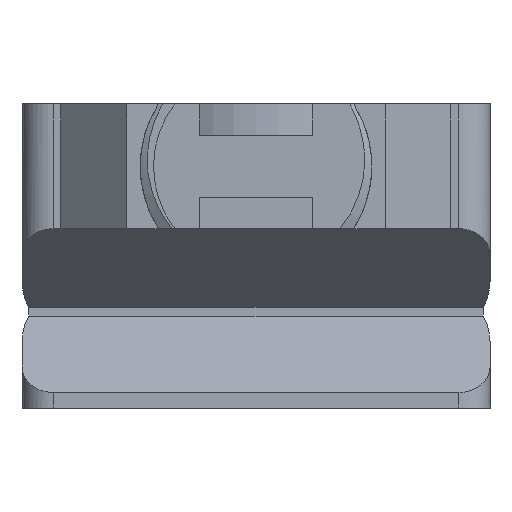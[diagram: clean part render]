
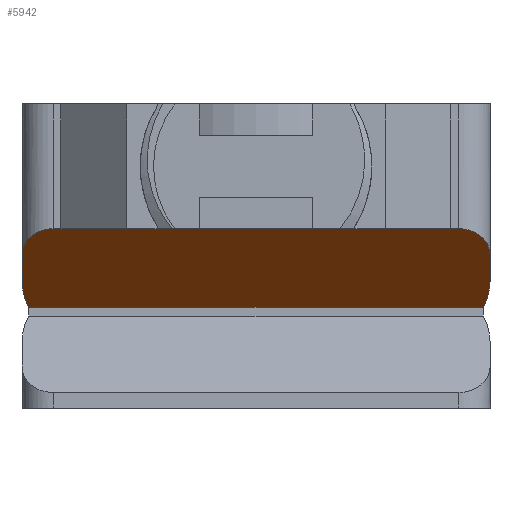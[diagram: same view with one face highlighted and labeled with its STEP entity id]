
A CAD part, left-side view. The second image highlights one B-rep face of the part: STEP entity #5942.
In plain terms, the highlighted planar face has unit normal (-0.643, 0, -0.766).
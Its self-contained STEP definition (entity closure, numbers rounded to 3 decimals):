
#17=ELLIPSE('',#6138,6.527,5.);
#18=ELLIPSE('',#6139,6.527,5.);
#19=ELLIPSE('',#6140,2.611,2.);
#20=ELLIPSE('',#6141,2.611,2.);
#65=PLANE('',#6137);
#522=FACE_OUTER_BOUND('',#839,.T.);
#839=EDGE_LOOP('',(#5428,#5429,#5430,#5431,#5432,#5433,#5434,#5435));
#1751=LINE('',#17975,#2092);
#1752=LINE('',#17982,#2093);
#1753=LINE('',#17986,#2094);
#1754=LINE('',#17989,#2095);
#2092=VECTOR('',#6805,10.);
#2093=VECTOR('',#6812,10.);
#2094=VECTOR('',#6815,10.);
#2095=VECTOR('',#6818,10.);
#2718=VERTEX_POINT('',#17969);
#2720=VERTEX_POINT('',#17973);
#2721=VERTEX_POINT('',#17977);
#2722=VERTEX_POINT('',#17979);
#2723=VERTEX_POINT('',#17981);
#2724=VERTEX_POINT('',#17983);
#2725=VERTEX_POINT('',#17985);
#2726=VERTEX_POINT('',#17987);
#3631=EDGE_CURVE('',#2718,#2720,#1751,.T.);
#3632=EDGE_CURVE('',#2718,#2721,#17,.T.);
#3633=EDGE_CURVE('',#2722,#2720,#18,.T.);
#3634=EDGE_CURVE('',#2723,#2722,#1752,.T.);
#3635=EDGE_CURVE('',#2724,#2723,#19,.T.);
#3636=EDGE_CURVE('',#2725,#2724,#1753,.T.);
#3637=EDGE_CURVE('',#2726,#2725,#20,.T.);
#3638=EDGE_CURVE('',#2721,#2726,#1754,.T.);
#5428=ORIENTED_EDGE('',*,*,#3632,.F.);
#5429=ORIENTED_EDGE('',*,*,#3631,.T.);
#5430=ORIENTED_EDGE('',*,*,#3633,.F.);
#5431=ORIENTED_EDGE('',*,*,#3634,.F.);
#5432=ORIENTED_EDGE('',*,*,#3635,.F.);
#5433=ORIENTED_EDGE('',*,*,#3636,.F.);
#5434=ORIENTED_EDGE('',*,*,#3637,.F.);
#5435=ORIENTED_EDGE('',*,*,#3638,.F.);
#5942=ADVANCED_FACE('',(#522),#65,.F.);
#6137=AXIS2_PLACEMENT_3D('',#17976,#6806,#6807);
#6138=AXIS2_PLACEMENT_3D('',#17978,#6808,#6809);
#6139=AXIS2_PLACEMENT_3D('',#17980,#6810,#6811);
#6140=AXIS2_PLACEMENT_3D('',#17984,#6813,#6814);
#6141=AXIS2_PLACEMENT_3D('',#17988,#6816,#6817);
#6805=DIRECTION('',(0.,-1.,0.));
#6806=DIRECTION('center_axis',(0.643,0.,0.766));
#6807=DIRECTION('ref_axis',(-0.766,0.,0.643));
#6808=DIRECTION('center_axis',(0.643,0.,0.766));
#6809=DIRECTION('ref_axis',(0.766,0.,-0.643));
#6810=DIRECTION('center_axis',(0.643,0.,0.766));
#6811=DIRECTION('ref_axis',(0.766,0.,-0.643));
#6812=DIRECTION('',(0.766,0.,-0.643));
#6813=DIRECTION('center_axis',(0.643,0.,0.766));
#6814=DIRECTION('ref_axis',(-0.766,0.,0.643));
#6815=DIRECTION('',(0.,-1.,0.));
#6816=DIRECTION('center_axis',(0.643,0.,0.766));
#6817=DIRECTION('ref_axis',(-0.766,0.,0.643));
#6818=DIRECTION('',(-0.766,0.,0.643));
#17969=CARTESIAN_POINT('',(41.007,14.579,-5.042));
#17973=CARTESIAN_POINT('',(41.007,-14.579,-5.042));
#17975=CARTESIAN_POINT('',(41.007,15.,-5.042));
#17976=CARTESIAN_POINT('Origin',(41.007,15.,-5.042));
#17977=CARTESIAN_POINT('',(39.,15.,-3.357));
#17978=CARTESIAN_POINT('Origin',(39.,10.,-3.357));
#17979=CARTESIAN_POINT('',(39.,-15.,-3.357));
#17980=CARTESIAN_POINT('Origin',(39.,-10.,-3.357));
#17981=CARTESIAN_POINT('',(37.,-15.,-1.679));
#17982=CARTESIAN_POINT('',(38.59,-15.,-3.014));
#17983=CARTESIAN_POINT('',(35.,-13.,-0.001));
#17984=CARTESIAN_POINT('Origin',(37.,-13.,-1.679));
#17985=CARTESIAN_POINT('',(35.,13.,-0.001));
#17986=CARTESIAN_POINT('',(35.,14.,-0.001));
#17987=CARTESIAN_POINT('',(37.,15.,-1.679));
#17988=CARTESIAN_POINT('Origin',(37.,13.,-1.679));
#17989=CARTESIAN_POINT('',(39.177,15.,-3.506));
